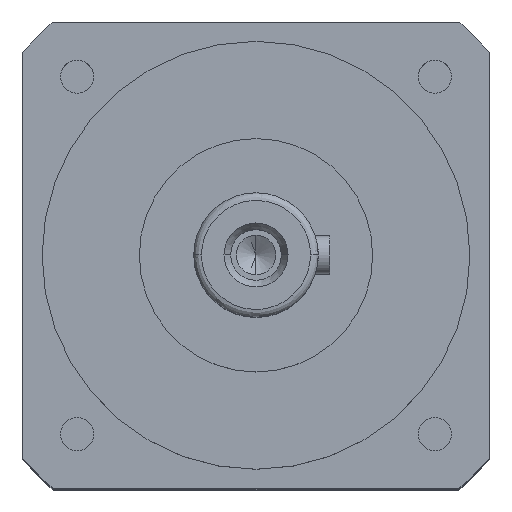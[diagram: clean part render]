
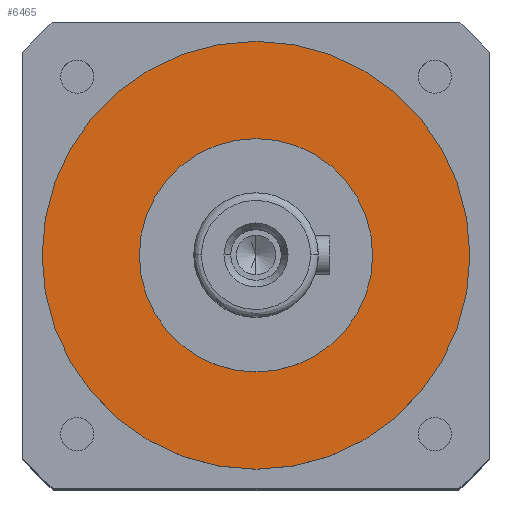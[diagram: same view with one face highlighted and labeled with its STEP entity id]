
A CAD part, top view. The second image highlights one B-rep face of the part: STEP entity #6465.
In plain terms, the highlighted planar face has unit normal (0, 0, 1).
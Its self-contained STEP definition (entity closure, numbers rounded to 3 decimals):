
#682 = DIRECTION ( 'NONE',  ( 0., 0., -1. ) ) ;
#2091 = AXIS2_PLACEMENT_3D ( 'NONE', #3923, #27719, #7361 ) ;
#3562 = CIRCLE ( 'NONE', #14400, 30. ) ;
#3923 = CARTESIAN_POINT ( 'NONE',  ( 0., 0., -52. ) ) ;
#5213 = CARTESIAN_POINT ( 'NONE',  ( 0., 0., -52. ) ) ;
#6006 = EDGE_CURVE ( 'NONE', #32684, #21936, #21025, .T. ) ;
#6465 = ADVANCED_FACE ( 'NONE', ( #10316, #20466 ), #8355, .F. ) ;
#7361 = DIRECTION ( 'NONE',  ( 1., 0., 0. ) ) ;
#8008 = EDGE_CURVE ( 'NONE', #9786, #28808, #24082, .T. ) ;
#8355 = PLANE ( 'NONE',  #24071 ) ;
#8646 = DIRECTION ( 'NONE',  ( 1., 0., 0. ) ) ;
#8768 = DIRECTION ( 'NONE',  ( 0., 0., 1. ) ) ;
#9786 = VERTEX_POINT ( 'NONE', #29627 ) ;
#10316 = FACE_OUTER_BOUND ( 'NONE', #29268, .T. ) ;
#10835 = AXIS2_PLACEMENT_3D ( 'NONE', #21109, #682, #24498 ) ;
#13478 = EDGE_LOOP ( 'NONE', ( #14570, #22650 ) ) ;
#14400 = AXIS2_PLACEMENT_3D ( 'NONE', #29107, #8768, #32540 ) ;
#14570 = ORIENTED_EDGE ( 'NONE', *, *, #36451, .F. ) ;
#18638 = CARTESIAN_POINT ( 'NONE',  ( 0., 30., -52. ) ) ;
#20466 = FACE_BOUND ( 'NONE', #13478, .T. ) ;
#20688 = AXIS2_PLACEMENT_3D ( 'NONE', #5213, #28994, #8646 ) ;
#21025 = CIRCLE ( 'NONE', #2091, 30. ) ;
#21109 = CARTESIAN_POINT ( 'NONE',  ( 0., 0., -52. ) ) ;
#21554 = ORIENTED_EDGE ( 'NONE', *, *, #8008, .F. ) ;
#21936 = VERTEX_POINT ( 'NONE', #22124 ) ;
#22044 = DIRECTION ( 'NONE',  ( -1., 0., 0. ) ) ;
#22124 = CARTESIAN_POINT ( 'NONE',  ( 30., 0., -52. ) ) ;
#22650 = ORIENTED_EDGE ( 'NONE', *, *, #6006, .F. ) ;
#24071 = AXIS2_PLACEMENT_3D ( 'NONE', #18638, #42451, #22044 ) ;
#24082 = CIRCLE ( 'NONE', #20688, 55. ) ;
#24498 = DIRECTION ( 'NONE',  ( 1., 0., 0. ) ) ;
#26401 = ORIENTED_EDGE ( 'NONE', *, *, #32011, .F. ) ;
#27719 = DIRECTION ( 'NONE',  ( 0., 0., 1. ) ) ;
#28808 = VERTEX_POINT ( 'NONE', #30403 ) ;
#28994 = DIRECTION ( 'NONE',  ( 0., 0., -1. ) ) ;
#29107 = CARTESIAN_POINT ( 'NONE',  ( 0., 0., -52. ) ) ;
#29268 = EDGE_LOOP ( 'NONE', ( #26401, #21554 ) ) ;
#29627 = CARTESIAN_POINT ( 'NONE',  ( -55., 0., -52. ) ) ;
#30403 = CARTESIAN_POINT ( 'NONE',  ( 55., 0., -52. ) ) ;
#32011 = EDGE_CURVE ( 'NONE', #28808, #9786, #41594, .T. ) ;
#32540 = DIRECTION ( 'NONE',  ( 1., 0., 0. ) ) ;
#32684 = VERTEX_POINT ( 'NONE', #38748 ) ;
#36451 = EDGE_CURVE ( 'NONE', #21936, #32684, #3562, .T. ) ;
#38748 = CARTESIAN_POINT ( 'NONE',  ( -30., 0., -52. ) ) ;
#41594 = CIRCLE ( 'NONE', #10835, 55. ) ;
#42451 = DIRECTION ( 'NONE',  ( 0., 0., -1. ) ) ;
